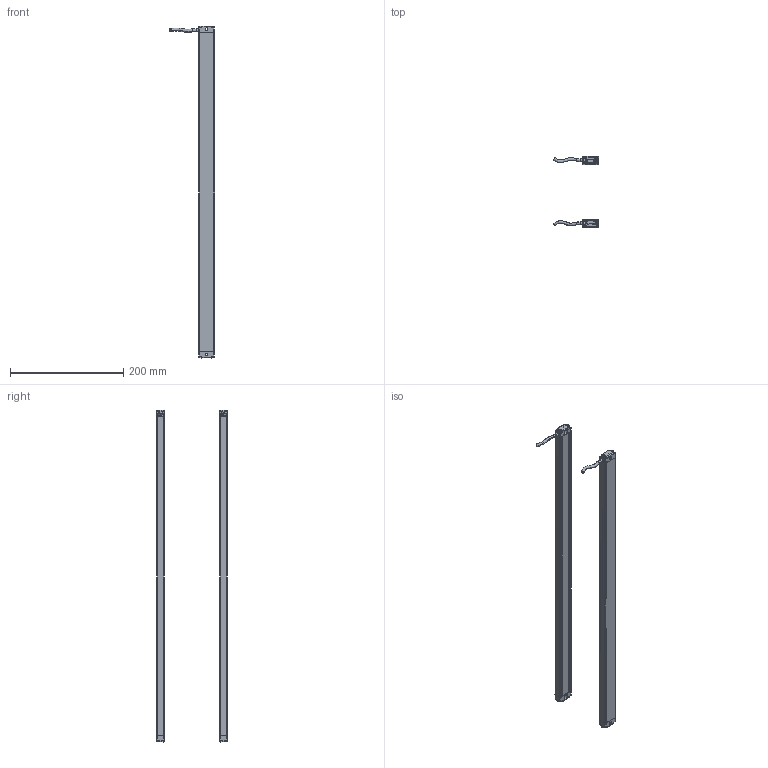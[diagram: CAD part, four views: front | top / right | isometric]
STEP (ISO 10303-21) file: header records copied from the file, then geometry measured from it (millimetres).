
FILE_DESCRIPTION(/* description */ (''),/* implementation_level */ '2;1');
FILE_NAME(/* name */ '1440（13x28w).stp',/* time_stamp */ '2020-07-14T20:09:48+08:00',/* author */ (''),/* organization */ (''),/* preprocessor_version */ 'ST-DEVELOPER v16',/* originating_system */ 'SIEMENS PLM Software NX 10.0',/* authorisation */ '');
FILE_SCHEMA (('AP203_CONFIGURATION_CONTROLLED_3D_DESIGN_OF_MECHANICAL_PARTS_AND_ASSEMBLIES_MIM_LF { 1 0 10303 403 2 1 2}'));
Length unit declared in the file: millimetre
Products named in the file (1): Admi58A03253m89i
Bounding box: 79.6 x 125.02 x 586 mm (x, y, z)
Volume: 171870.4 mm3; surface area: 228039.2 mm2
Topology: 10 solids, 10 shells, 760 faces, 2150 edges, 1419 vertices
Faces by surface type: plane 356, cylinder 312, torus 52, bspline 40
Entity records: 28371 total; most frequent: CARTESIAN_POINT 8835, ORIENTED_EDGE 4300, DIRECTION 3785, EDGE_CURVE 2150, VERTEX_POINT 1419, AXIS2_PLACEMENT_3D 1285, LINE 1215, VECTOR 1215
